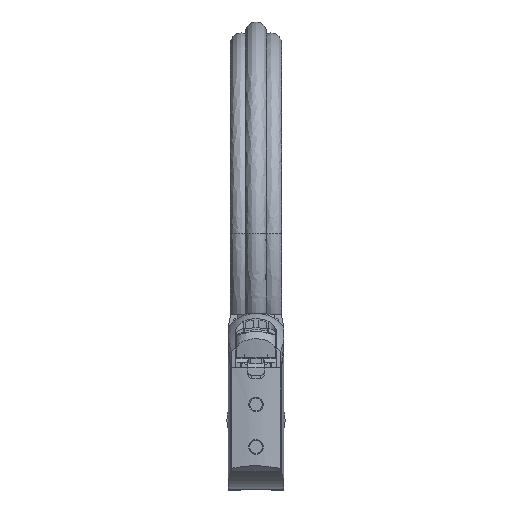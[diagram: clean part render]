
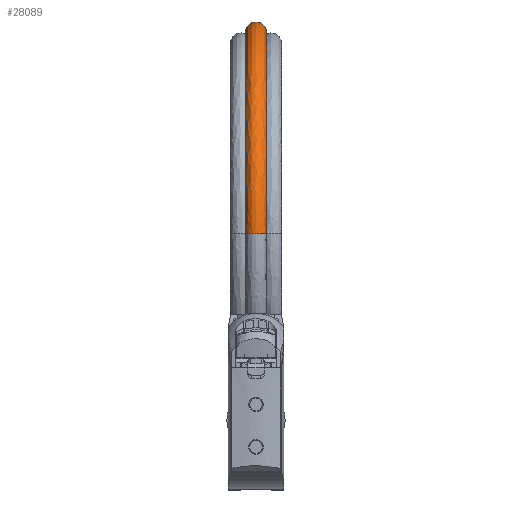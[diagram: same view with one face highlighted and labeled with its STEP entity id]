
A CAD part, top view. The second image highlights one B-rep face of the part: STEP entity #28089.
In plain terms, the highlighted free-form (B-spline) face has degree [3, 3] with [7, 4] control points.
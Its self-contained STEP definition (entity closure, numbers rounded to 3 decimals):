
#428 = CARTESIAN_POINT ( 'NONE',  ( -2.992, 48.4, -121.536 ) ) ;
#602 = CARTESIAN_POINT ( 'NONE',  ( -2.992, 126.227, -121.536 ) ) ;
#1072 = CARTESIAN_POINT ( 'NONE',  ( -7.508, 48.4, -121.536 ) ) ;
#1388 = CARTESIAN_POINT ( 'NONE',  ( -5.25, 128.4, -120.45 ) ) ;
#1548 = CARTESIAN_POINT ( 'NONE',  ( -6.64, 128.4, -200.45 ) ) ;
#1885 = CARTESIAN_POINT ( 'NONE',  ( -7.395, 48.4, -199.497 ) ) ;
#2040 = CIRCLE ( 'NONE', #15664, 37.755 ) ;
#2148 = CARTESIAN_POINT ( 'NONE',  ( -3.265, 48.4, -160.45 ) ) ;
#2197 = AXIS2_PLACEMENT_3D ( 'NONE', #10942, #20661, #8511 ) ;
#2673 = CARTESIAN_POINT ( 'NONE',  ( -6.527, 48.4, -120.45 ) ) ;
#4128 = CARTESIAN_POINT ( 'NONE',  ( -7.508, 48.4, -199.364 ) ) ;
#4314 = CARTESIAN_POINT ( 'NONE',  ( -6.527, 48.4, -200.45 ) ) ;
#5911 = EDGE_CURVE ( 'NONE', #18766, #16813, #2040, .T. ) ;
#6530 =( BOUNDED_CURVE ( )  B_SPLINE_CURVE ( 3, ( #22535, #25162, #20070, #17578, #2673, #25329, #28291 ),
 .UNSPECIFIED., .F., .T. ) 
 B_SPLINE_CURVE_WITH_KNOTS ( ( 4, 3, 4 ),
 ( 0.031, 0.5, 0.969 ),
 .UNSPECIFIED. ) 
 CURVE ( )  GEOMETRIC_REPRESENTATION_ITEM ( )  RATIONAL_B_SPLINE_CURVE ( ( 0.956, 0.75, 0.765, 1., 0.765, 0.75, 0.956 ) ) 
 REPRESENTATION_ITEM ( '' )  );
#8511 = DIRECTION ( 'NONE',  ( 0., 0., -1. ) ) ;
#8680 = VERTEX_POINT ( 'NONE', #9619 ) ;
#8753 = CARTESIAN_POINT ( 'NONE',  ( -5.25, 128.4, -200.45 ) ) ;
#9242 = CARTESIAN_POINT ( 'NONE',  ( -3.265, 48.4, -198.205 ) ) ;
#9619 = CARTESIAN_POINT ( 'NONE',  ( -7.235, 48.4, -198.205 ) ) ;
#9819 = DIRECTION ( 'NONE',  ( 0., 0., -1. ) ) ;
#10706 = CARTESIAN_POINT ( 'NONE',  ( -3.3, 48.4, -198.008 ) ) ;
#10860 = CARTESIAN_POINT ( 'NONE',  ( -2.992, 48.4, -199.364 ) ) ;
#10942 = CARTESIAN_POINT ( 'NONE',  ( -7.235, 48.4, -160.45 ) ) ;
#11342 = CARTESIAN_POINT ( 'NONE',  ( -7.508, 126.227, -199.364 ) ) ;
#11504 = CARTESIAN_POINT ( 'NONE',  ( -6.64, 128.4, -120.45 ) ) ;
#12101 = DIRECTION ( 'NONE',  ( -1., 0., 0. ) ) ;
#12206 = ORIENTED_EDGE ( 'NONE', *, *, #24232, .F. ) ;
#13012 = ORIENTED_EDGE ( 'NONE', *, *, #13438, .T. ) ;
#13438 = EDGE_CURVE ( 'NONE', #16813, #8680, #18192, .T. ) ;
#13597 = ORIENTED_EDGE ( 'NONE', *, *, #5911, .T. ) ;
#13827 = CARTESIAN_POINT ( 'NONE',  ( -7.508, 126.227, -121.536 ) ) ;
#14655 =( BOUNDED_SURFACE ( )  B_SPLINE_SURFACE ( 3, 3, ( 
 ( #10706, #18410, #15825, #23023 ),
 ( #10860, #22863, #602, #428 ),
 ( #30446, #30607, #28461, #31712 ),
 ( #18915, #8753, #1388, #29103 ),
 ( #26615, #1548, #11504, #28616 ),
 ( #4128, #11342, #13827, #1072 ),
 ( #19075, #21556, #16605, #31084 ) ),
 .UNSPECIFIED., .F., .F., .F. ) 
 B_SPLINE_SURFACE_WITH_KNOTS ( ( 4, 3, 4 ),
 ( 4, 4 ),
 ( 0., 0.5, 1. ),
 ( 0., 1. ),
 .UNSPECIFIED. ) 
 GEOMETRIC_REPRESENTATION_ITEM ( )  RATIONAL_B_SPLINE_SURFACE ( (
 ( 1., 0.333, 0.333, 1.),
 ( 0.749, 0.25, 0.25, 0.749),
 ( 0.749, 0.25, 0.25, 0.749),
 ( 1., 0.333, 0.333, 1.),
 ( 0.749, 0.25, 0.25, 0.749),
 ( 0.749, 0.25, 0.25, 0.749),
 ( 1., 0.333, 0.333, 1.) ) ) 
 REPRESENTATION_ITEM ( '' )  SURFACE ( )  );
#15664 = AXIS2_PLACEMENT_3D ( 'NONE', #2148, #12101, #9819 ) ;
#15825 = CARTESIAN_POINT ( 'NONE',  ( -3.3, 123.516, -122.892 ) ) ;
#16340 = CIRCLE ( 'NONE', #2197, 37.755 ) ;
#16605 = CARTESIAN_POINT ( 'NONE',  ( -7.2, 123.516, -122.892 ) ) ;
#16796 = CARTESIAN_POINT ( 'NONE',  ( -5.25, 48.4, -200.45 ) ) ;
#16813 = VERTEX_POINT ( 'NONE', #31121 ) ;
#17578 = CARTESIAN_POINT ( 'NONE',  ( -5.25, 48.4, -120.45 ) ) ;
#17958 = VERTEX_POINT ( 'NONE', #25380 ) ;
#18192 =( BOUNDED_CURVE ( )  B_SPLINE_CURVE ( 3, ( #9242, #19248, #18771, #16796, #4314, #1885, #24494 ),
 .UNSPECIFIED., .F., .T. ) 
 B_SPLINE_CURVE_WITH_KNOTS ( ( 4, 3, 4 ),
 ( 0.031, 0.5, 0.969 ),
 .UNSPECIFIED. ) 
 CURVE ( )  GEOMETRIC_REPRESENTATION_ITEM ( )  RATIONAL_B_SPLINE_CURVE ( ( 0.956, 0.75, 0.765, 1., 0.765, 0.75, 0.956 ) ) 
 REPRESENTATION_ITEM ( '' )  );
#18410 = CARTESIAN_POINT ( 'NONE',  ( -3.3, 123.516, -198.008 ) ) ;
#18766 = VERTEX_POINT ( 'NONE', #24986 ) ;
#18771 = CARTESIAN_POINT ( 'NONE',  ( -3.973, 48.4, -200.45 ) ) ;
#18915 = CARTESIAN_POINT ( 'NONE',  ( -5.25, 48.4, -200.45 ) ) ;
#19075 = CARTESIAN_POINT ( 'NONE',  ( -7.2, 48.4, -198.008 ) ) ;
#19248 = CARTESIAN_POINT ( 'NONE',  ( -3.105, 48.4, -199.497 ) ) ;
#20070 = CARTESIAN_POINT ( 'NONE',  ( -3.973, 48.4, -120.45 ) ) ;
#20334 = EDGE_LOOP ( 'NONE', ( #20596, #12206, #13597, #13012 ) ) ;
#20596 = ORIENTED_EDGE ( 'NONE', *, *, #29109, .T. ) ;
#20661 = DIRECTION ( 'NONE',  ( 1., 0., 0. ) ) ;
#21556 = CARTESIAN_POINT ( 'NONE',  ( -7.2, 123.516, -198.008 ) ) ;
#22535 = CARTESIAN_POINT ( 'NONE',  ( -3.265, 48.4, -122.695 ) ) ;
#22863 = CARTESIAN_POINT ( 'NONE',  ( -2.992, 126.227, -199.364 ) ) ;
#23023 = CARTESIAN_POINT ( 'NONE',  ( -3.3, 48.4, -122.892 ) ) ;
#23338 = FACE_OUTER_BOUND ( 'NONE', #20334, .T. ) ;
#24232 = EDGE_CURVE ( 'NONE', #18766, #17958, #6530, .T. ) ;
#24494 = CARTESIAN_POINT ( 'NONE',  ( -7.235, 48.4, -198.205 ) ) ;
#24986 = CARTESIAN_POINT ( 'NONE',  ( -3.265, 48.4, -122.695 ) ) ;
#25162 = CARTESIAN_POINT ( 'NONE',  ( -3.105, 48.4, -121.403 ) ) ;
#25329 = CARTESIAN_POINT ( 'NONE',  ( -7.395, 48.4, -121.403 ) ) ;
#25380 = CARTESIAN_POINT ( 'NONE',  ( -7.235, 48.4, -122.695 ) ) ;
#26615 = CARTESIAN_POINT ( 'NONE',  ( -6.64, 48.4, -200.45 ) ) ;
#28089 = ADVANCED_FACE ( 'NONE', ( #23338 ), #14655, .T. ) ;
#28291 = CARTESIAN_POINT ( 'NONE',  ( -7.235, 48.4, -122.695 ) ) ;
#28461 = CARTESIAN_POINT ( 'NONE',  ( -3.86, 128.4, -120.45 ) ) ;
#28616 = CARTESIAN_POINT ( 'NONE',  ( -6.64, 48.4, -120.45 ) ) ;
#29103 = CARTESIAN_POINT ( 'NONE',  ( -5.25, 48.4, -120.45 ) ) ;
#29109 = EDGE_CURVE ( 'NONE', #8680, #17958, #16340, .T. ) ;
#30446 = CARTESIAN_POINT ( 'NONE',  ( -3.86, 48.4, -200.45 ) ) ;
#30607 = CARTESIAN_POINT ( 'NONE',  ( -3.86, 128.4, -200.45 ) ) ;
#31084 = CARTESIAN_POINT ( 'NONE',  ( -7.2, 48.4, -122.892 ) ) ;
#31121 = CARTESIAN_POINT ( 'NONE',  ( -3.265, 48.4, -198.205 ) ) ;
#31712 = CARTESIAN_POINT ( 'NONE',  ( -3.86, 48.4, -120.45 ) ) ;
